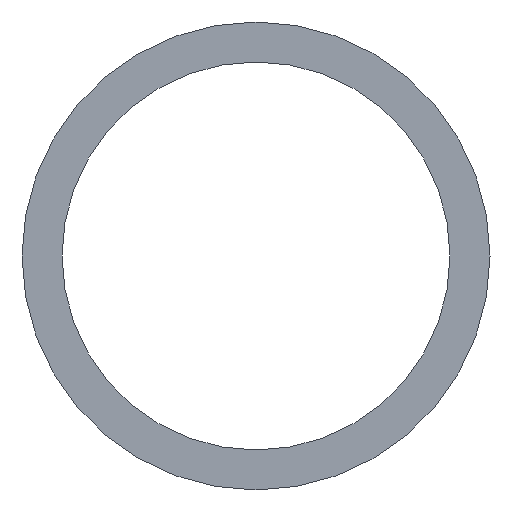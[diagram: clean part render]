
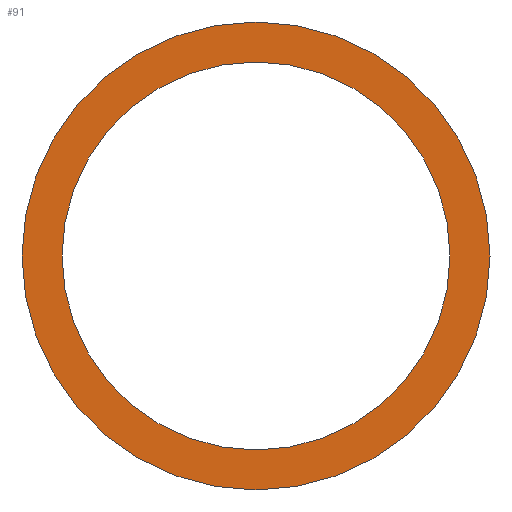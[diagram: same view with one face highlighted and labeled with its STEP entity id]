
A CAD part, left-side view. The second image highlights one B-rep face of the part: STEP entity #91.
In plain terms, the highlighted planar face has unit normal (-1, 0, 0).
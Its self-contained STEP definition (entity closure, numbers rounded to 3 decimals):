
#1 = DIRECTION ( 'NONE',  ( -1., 0., 0. ) ) ;
#8 = VERTEX_POINT ( 'NONE', #163 ) ;
#10 = CARTESIAN_POINT ( 'NONE',  ( 5405., 3763.85, 5775.85 ) ) ;
#11 = DIRECTION ( 'NONE',  ( 0., -1., 0. ) ) ;
#12 = VERTEX_POINT ( 'NONE', #10 ) ;
#18 = CIRCLE ( 'NONE', #20, 11.15 ) ;
#20 = AXIS2_PLACEMENT_3D ( 'NONE', #42, #83, #11 ) ;
#24 = AXIS2_PLACEMENT_3D ( 'NONE', #193, #47, #114 ) ;
#39 = EDGE_CURVE ( 'NONE', #8, #97, #76, .T. ) ;
#42 = CARTESIAN_POINT ( 'NONE',  ( 5405., 3775., 5775.85 ) ) ;
#47 = DIRECTION ( 'NONE',  ( -1., 0., 0. ) ) ;
#51 = VERTEX_POINT ( 'NONE', #87 ) ;
#53 = CARTESIAN_POINT ( 'NONE',  ( 5405., 3788.45, 5775.85 ) ) ;
#54 = FACE_OUTER_BOUND ( 'NONE', #167, .T. ) ;
#60 = AXIS2_PLACEMENT_3D ( 'NONE', #72, #134, #202 ) ;
#62 = EDGE_CURVE ( 'NONE', #97, #8, #196, .T. ) ;
#68 = DIRECTION ( 'NONE',  ( -1., 0., 0. ) ) ;
#72 = CARTESIAN_POINT ( 'NONE',  ( 5405., 3775., 5775.85 ) ) ;
#76 = CIRCLE ( 'NONE', #24, 13.45 ) ;
#83 = DIRECTION ( 'NONE',  ( -1., 0., 0. ) ) ;
#87 = CARTESIAN_POINT ( 'NONE',  ( 5405., 3786.15, 5775.85 ) ) ;
#91 = ADVANCED_FACE ( 'NONE', ( #54, #198 ), #120, .T. ) ;
#93 = CARTESIAN_POINT ( 'NONE',  ( 5405., 3775., 5775.85 ) ) ;
#97 = VERTEX_POINT ( 'NONE', #53 ) ;
#102 = DIRECTION ( 'NONE',  ( 0., -1., 0. ) ) ;
#114 = DIRECTION ( 'NONE',  ( 0., -1., 0. ) ) ;
#117 = ORIENTED_EDGE ( 'NONE', *, *, #133, .F. ) ;
#120 = PLANE ( 'NONE',  #123 ) ;
#123 = AXIS2_PLACEMENT_3D ( 'NONE', #93, #1, #135 ) ;
#127 = ORIENTED_EDGE ( 'NONE', *, *, #192, .F. ) ;
#133 = EDGE_CURVE ( 'NONE', #12, #51, #154, .T. ) ;
#134 = DIRECTION ( 'NONE',  ( -1., 0., 0. ) ) ;
#135 = DIRECTION ( 'NONE',  ( 0., -1., 0. ) ) ;
#147 = CARTESIAN_POINT ( 'NONE',  ( 5405., 3775., 5775.85 ) ) ;
#154 = CIRCLE ( 'NONE', #60, 11.15 ) ;
#163 = CARTESIAN_POINT ( 'NONE',  ( 5405., 3761.55, 5775.85 ) ) ;
#166 = ORIENTED_EDGE ( 'NONE', *, *, #62, .T. ) ;
#167 = EDGE_LOOP ( 'NONE', ( #166, #176 ) ) ;
#175 = AXIS2_PLACEMENT_3D ( 'NONE', #147, #68, #102 ) ;
#176 = ORIENTED_EDGE ( 'NONE', *, *, #39, .T. ) ;
#178 = EDGE_LOOP ( 'NONE', ( #127, #117 ) ) ;
#192 = EDGE_CURVE ( 'NONE', #51, #12, #18, .T. ) ;
#193 = CARTESIAN_POINT ( 'NONE',  ( 5405., 3775., 5775.85 ) ) ;
#196 = CIRCLE ( 'NONE', #175, 13.45 ) ;
#198 = FACE_BOUND ( 'NONE', #178, .T. ) ;
#202 = DIRECTION ( 'NONE',  ( 0., -1., 0. ) ) ;
